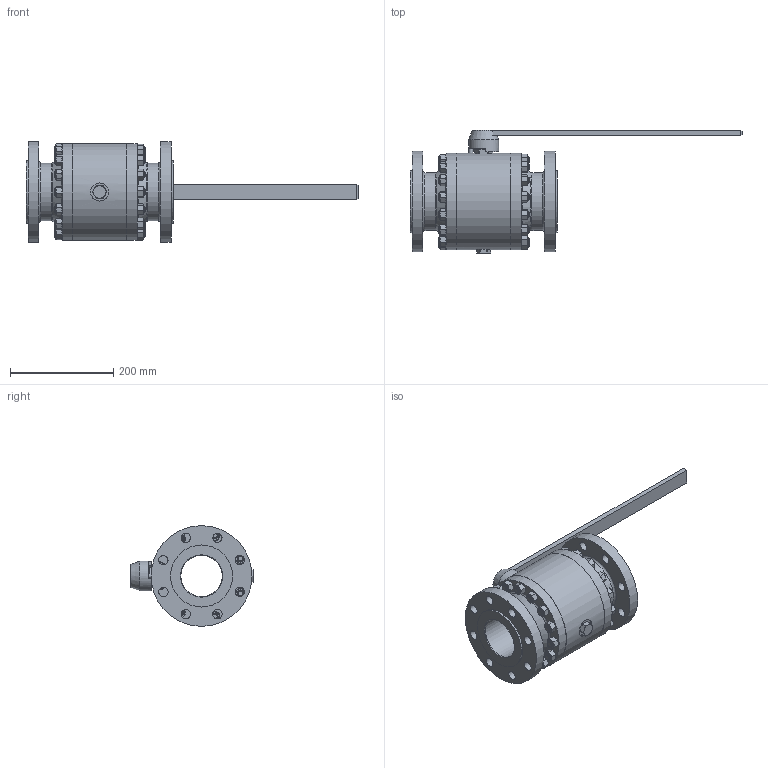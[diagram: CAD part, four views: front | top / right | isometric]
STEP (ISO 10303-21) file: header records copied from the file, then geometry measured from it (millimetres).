
FILE_DESCRIPTION(('STEP AP203'), '1');
FILE_NAME('ZARDP 080.040.22.P.stp', '2013-12-06T11:38:27', ('Ñèçîâ À.Í.'), ('ÎÎÎ "ÈÊ Ýíåðïðåä-ßðäîñ"'), 'ASCON STEP Converter 1.3', 'Kompas 3D', '');
FILE_SCHEMA(('CONFIG_CONTROL_DESIGN','SUPPORT_RESOURCE_SCHEMA'));
Length unit declared in the file: millimetre
Products named in the file (1): 279
Bounding box: 642.5 x 238 x 195 mm (x, y, z)
Volume: 4092867.5 mm3; surface area: 588526.9 mm2
Topology: 2 solids, 22 shells, 860 faces, 1820 edges, 1152 vertices
Faces by surface type: plane 445, cone 214, cylinder 194, torus 7
Full cylindrical faces by diameter (mm): 6.647 x1, 8 x3, 8.5 x1, 10.4 x1, 12 x90, 13 x30, 16 x1, 18 x16, 23.4 x1, 27 x4, 27.1 x1, 29 x1, 35 x1, 37 x2, 58 x1, 80 x2, 112 x2, 120 x2, 130.4 x2, 140 x4, 187 x3, 195 x2
Entity records: 41274 total; most frequent: CARTESIAN_POINT 22779, DIRECTION 3828, ORIENTED_EDGE 3640, EDGE_CURVE 1820, AXIS2_PLACEMENT_3D 1570, VERTEX_POINT 1152, EDGE_LOOP 1062, ADVANCED_FACE 860
